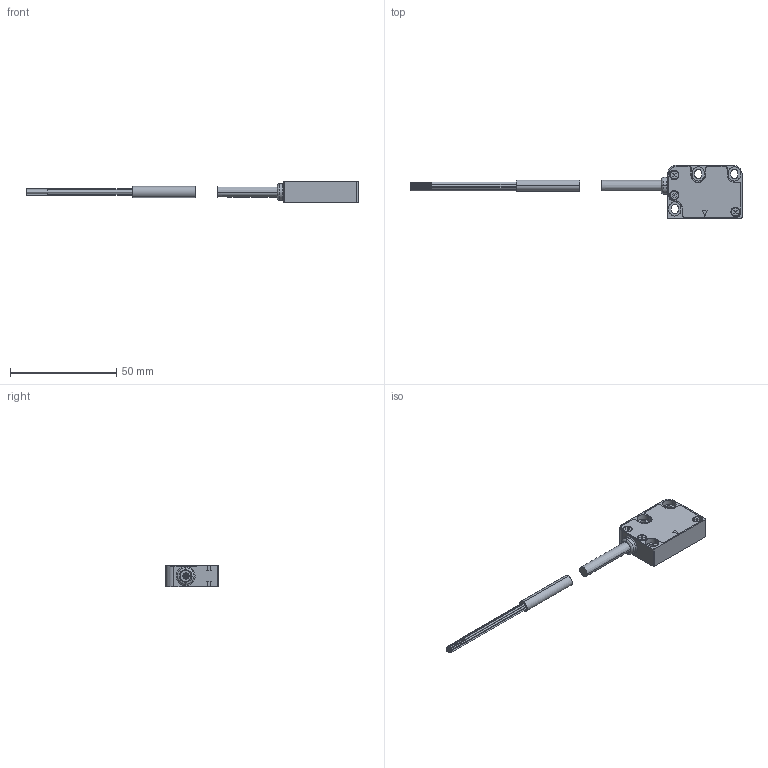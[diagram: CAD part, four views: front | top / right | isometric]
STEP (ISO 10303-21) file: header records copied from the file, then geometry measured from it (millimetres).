
FILE_DESCRIPTION (( 'STEP AP203' ), '1' );
FILE_NAME ('MSK500AS-E1-X-I-0-X-X.STEP', '2020-04-13T01:53:04', ( '' ), ( '' ), 'SwSTEP 2.0', 'SolidWorks 2010', '' );
FILE_SCHEMA (( 'CONFIG_CONTROL_DESIGN' ));
Length unit declared in the file: millimetre
Products named in the file (3): MSK500AS-E1-X-I-0-X-X; _Bauform ZM; _Connector E1
Assembly tree (2 placements, depth 2):
  MSK500AS-E1-X-I-0-X-X
    _Connector E1
    _Bauform ZM
Bounding box: 156.34 x 25 x 10 mm (x, y, z)
Volume: 9542.3 mm3; surface area: 5711.1 mm2
Topology: 2 solids, 2 shells, 226 faces, 552 edges, 364 vertices
Faces by surface type: plane 124, cylinder 88, cone 8, bspline 6
Entity records: 7059 total; most frequent: CARTESIAN_POINT 1243, DIRECTION 1196, ORIENTED_EDGE 1104, EDGE_CURVE 552, AXIS2_PLACEMENT_3D 421, VERTEX_POINT 364, VECTOR 354, LINE 354
